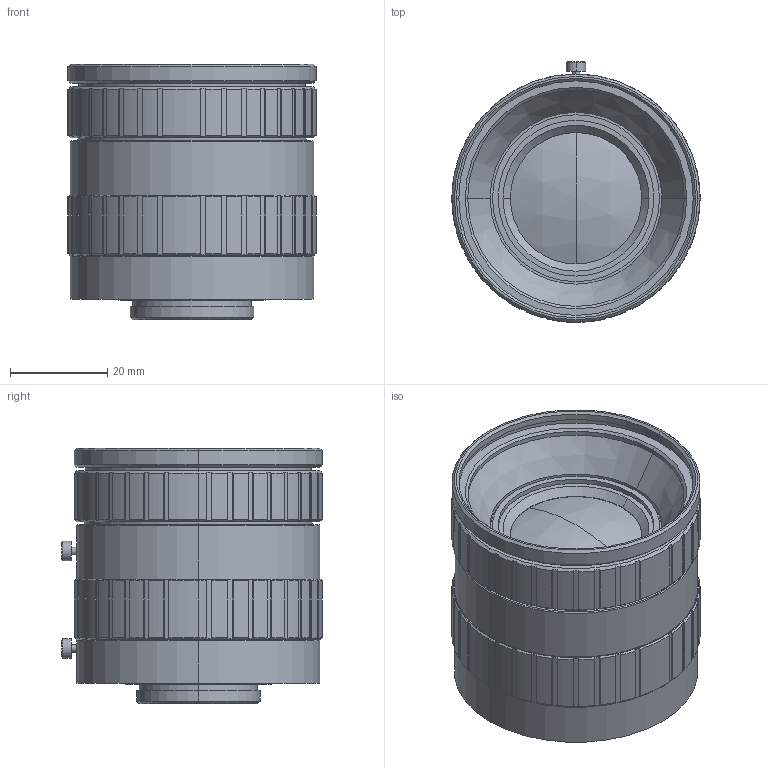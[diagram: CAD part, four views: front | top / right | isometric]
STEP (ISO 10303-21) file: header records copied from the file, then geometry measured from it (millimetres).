
FILE_DESCRIPTION (( 'STEP AP214' ), '1' );
FILE_NAME ('HF35SA-1_3D_Modeling.STEP', '2016-06-07T04:24:10', ( '富士フイルム株式会社' ), ( '富士フイルム株式会社' ), 'SwSTEP 2.0', 'SolidWorks 2014', '' );
FILE_SCHEMA (( 'AUTOMOTIVE_DESIGN' ));
Length unit declared in the file: millimetre
Products named in the file (1): HF35SA-1_3D_Modeling
Bounding box: 51 x 53.6 x 52.53 mm (x, y, z)
Volume: 80912.9 mm3; surface area: 15455.3 mm2
Topology: 1 solids, 1 shells, 365 faces, 990 edges, 650 vertices
Faces by surface type: cylinder 174, plane 151, cone 36, sphere 4
Entity records: 12030 total; most frequent: CARTESIAN_POINT 2926, ORIENTED_EDGE 1980, DIRECTION 1854, EDGE_CURVE 990, AXIS2_PLACEMENT_3D 758, VERTEX_POINT 650, CIRCLE 392, EDGE_LOOP 388
